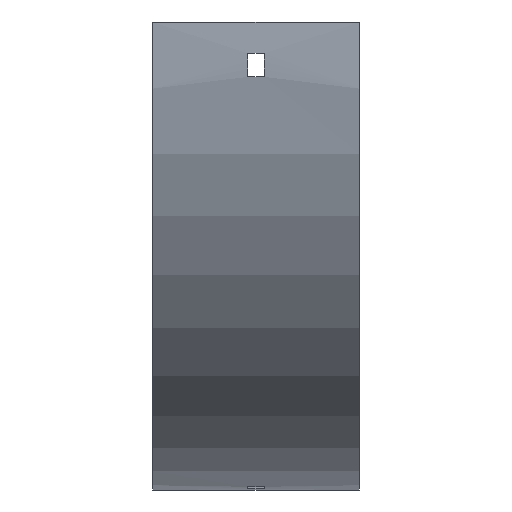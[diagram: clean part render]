
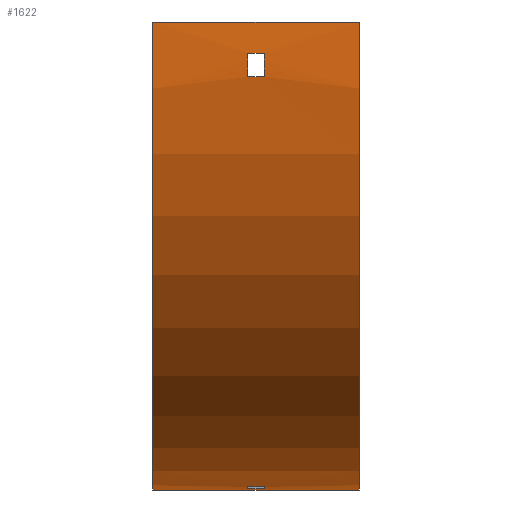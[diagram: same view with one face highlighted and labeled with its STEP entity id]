
A CAD part, front view. The second image highlights one B-rep face of the part: STEP entity #1622.
In plain terms, the highlighted cylindrical face has radius 179 mm (diameter 358 mm), a partial arc.
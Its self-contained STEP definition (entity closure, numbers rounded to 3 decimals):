
#3 = DIRECTION ( 'NONE',  ( -1., 0., 0. ) ) ;
#64 = EDGE_CURVE ( 'NONE', #220, #147, #594, .T. ) ;
#73 = DIRECTION ( 'NONE',  ( 1., 0., 0. ) ) ;
#77 = CARTESIAN_POINT ( 'NONE',  ( 39.5, 100., -179. ) ) ;
#121 = CARTESIAN_POINT ( 'NONE',  ( 3.25, 79., -177.764 ) ) ;
#137 = VERTEX_POINT ( 'NONE', #1407 ) ;
#147 = VERTEX_POINT ( 'NONE', #121 ) ;
#158 = EDGE_LOOP ( 'NONE', ( #167, #1554, #1001, #542 ) ) ;
#162 = CARTESIAN_POINT ( 'NONE',  ( 39.5, 79., -177.764 ) ) ;
#164 = ORIENTED_EDGE ( 'NONE', *, *, #1673, .F. ) ;
#167 = ORIENTED_EDGE ( 'NONE', *, *, #855, .T. ) ;
#173 = FACE_BOUND ( 'NONE', #302, .T. ) ;
#220 = VERTEX_POINT ( 'NONE', #941 ) ;
#227 = EDGE_LOOP ( 'NONE', ( #935, #814, #1685, #164 ) ) ;
#228 = VERTEX_POINT ( 'NONE', #920 ) ;
#230 = LINE ( 'NONE', #1642, #1481 ) ;
#244 = CIRCLE ( 'NONE', #711, 179. ) ;
#250 = CIRCLE ( 'NONE', #849, 179. ) ;
#288 = DIRECTION ( 'NONE',  ( 0., 0., -1. ) ) ;
#302 = EDGE_LOOP ( 'NONE', ( #1316, #1147, #911, #799 ) ) ;
#313 = EDGE_CURVE ( 'NONE', #1447, #918, #335, .T. ) ;
#326 = AXIS2_PLACEMENT_3D ( 'NONE', #845, #1091, #840 ) ;
#335 = LINE ( 'NONE', #1425, #1069 ) ;
#338 = EDGE_CURVE ( 'NONE', #891, #669, #244, .T. ) ;
#381 = CARTESIAN_POINT ( 'NONE',  ( 3.25, -77.764, -21. ) ) ;
#392 = CARTESIAN_POINT ( 'NONE',  ( 39.5, -78.597, -12. ) ) ;
#400 = LINE ( 'NONE', #392, #415 ) ;
#415 = VECTOR ( 'NONE', #1062, 1000. ) ;
#442 = DIRECTION ( 'NONE',  ( -1., 0., 0. ) ) ;
#482 = DIRECTION ( 'NONE',  ( -1., 0., 0. ) ) ;
#537 = EDGE_CURVE ( 'NONE', #1536, #1020, #595, .T. ) ;
#542 = ORIENTED_EDGE ( 'NONE', *, *, #1050, .T. ) ;
#564 = LINE ( 'NONE', #1220, #1184 ) ;
#566 = FACE_BOUND ( 'NONE', #227, .T. ) ;
#594 = CIRCLE ( 'NONE', #824, 179. ) ;
#595 = CIRCLE ( 'NONE', #1555, 179. ) ;
#610 = DIRECTION ( 'NONE',  ( 0., 0., 1. ) ) ;
#619 = VERTEX_POINT ( 'NONE', #1381 ) ;
#669 = VERTEX_POINT ( 'NONE', #1375 ) ;
#683 = DIRECTION ( 'NONE',  ( 1., 0., 0. ) ) ;
#711 = AXIS2_PLACEMENT_3D ( 'NONE', #862, #73, #1382 ) ;
#717 = DIRECTION ( 'NONE',  ( 1., 0., 0. ) ) ;
#722 = CARTESIAN_POINT ( 'NONE',  ( 3.25, -78.597, -12. ) ) ;
#732 = DIRECTION ( 'NONE',  ( -1., 0., 0. ) ) ;
#736 = AXIS2_PLACEMENT_3D ( 'NONE', #1631, #873, #1134 ) ;
#780 = EDGE_CURVE ( 'NONE', #619, #137, #984, .T. ) ;
#799 = ORIENTED_EDGE ( 'NONE', *, *, #537, .T. ) ;
#814 = ORIENTED_EDGE ( 'NONE', *, *, #974, .F. ) ;
#824 = AXIS2_PLACEMENT_3D ( 'NONE', #1007, #732, #610 ) ;
#832 = EDGE_CURVE ( 'NONE', #1020, #619, #230, .T. ) ;
#840 = DIRECTION ( 'NONE',  ( 0., 0., 1. ) ) ;
#845 = CARTESIAN_POINT ( 'NONE',  ( 39.5, 100., 0. ) ) ;
#849 = AXIS2_PLACEMENT_3D ( 'NONE', #1210, #683, #288 ) ;
#855 = EDGE_CURVE ( 'NONE', #228, #918, #903, .T. ) ;
#862 = CARTESIAN_POINT ( 'NONE',  ( -3.25, 100., 0. ) ) ;
#873 = DIRECTION ( 'NONE',  ( 1., 0., 0. ) ) ;
#891 = VERTEX_POINT ( 'NONE', #1394 ) ;
#903 = CIRCLE ( 'NONE', #736, 179. ) ;
#911 = ORIENTED_EDGE ( 'NONE', *, *, #954, .T. ) ;
#918 = VERTEX_POINT ( 'NONE', #1306 ) ;
#920 = CARTESIAN_POINT ( 'NONE',  ( -39.5, -79., 0. ) ) ;
#935 = ORIENTED_EDGE ( 'NONE', *, *, #338, .F. ) ;
#941 = CARTESIAN_POINT ( 'NONE',  ( 3.25, 88., -178.597 ) ) ;
#954 = EDGE_CURVE ( 'NONE', #137, #1536, #400, .T. ) ;
#974 = EDGE_CURVE ( 'NONE', #147, #891, #1689, .T. ) ;
#984 = CIRCLE ( 'NONE', #1124, 179. ) ;
#1001 = ORIENTED_EDGE ( 'NONE', *, *, #1303, .F. ) ;
#1007 = CARTESIAN_POINT ( 'NONE',  ( 3.25, 100., 0. ) ) ;
#1020 = VERTEX_POINT ( 'NONE', #381 ) ;
#1050 = EDGE_CURVE ( 'NONE', #1189, #228, #564, .T. ) ;
#1062 = DIRECTION ( 'NONE',  ( 1., 0., 0. ) ) ;
#1069 = VECTOR ( 'NONE', #1297, 1000. ) ;
#1091 = DIRECTION ( 'NONE',  ( -1., 0., 0. ) ) ;
#1113 = LINE ( 'NONE', #1483, #1188 ) ;
#1124 = AXIS2_PLACEMENT_3D ( 'NONE', #1668, #482, #1537 ) ;
#1134 = DIRECTION ( 'NONE',  ( 0., 0., -1. ) ) ;
#1141 = DIRECTION ( 'NONE',  ( -1., 0., 0. ) ) ;
#1147 = ORIENTED_EDGE ( 'NONE', *, *, #780, .T. ) ;
#1177 = CARTESIAN_POINT ( 'NONE',  ( 39.5, -79., 0. ) ) ;
#1184 = VECTOR ( 'NONE', #442, 1000. ) ;
#1188 = VECTOR ( 'NONE', #1617, 1000. ) ;
#1189 = VERTEX_POINT ( 'NONE', #1177 ) ;
#1210 = CARTESIAN_POINT ( 'NONE',  ( 39.5, 100., 0. ) ) ;
#1220 = CARTESIAN_POINT ( 'NONE',  ( 39.5, -79., 0. ) ) ;
#1234 = CYLINDRICAL_SURFACE ( 'NONE', #326, 179. ) ;
#1235 = CARTESIAN_POINT ( 'NONE',  ( 3.25, 100., 0. ) ) ;
#1297 = DIRECTION ( 'NONE',  ( -1., 0., 0. ) ) ;
#1303 = EDGE_CURVE ( 'NONE', #1189, #1447, #250, .T. ) ;
#1306 = CARTESIAN_POINT ( 'NONE',  ( -39.5, 100., -179. ) ) ;
#1316 = ORIENTED_EDGE ( 'NONE', *, *, #832, .T. ) ;
#1348 = VECTOR ( 'NONE', #3, 1000. ) ;
#1357 = FACE_OUTER_BOUND ( 'NONE', #158, .T. ) ;
#1369 = DIRECTION ( 'NONE',  ( 0., 0., -1. ) ) ;
#1375 = CARTESIAN_POINT ( 'NONE',  ( -3.25, 88., -178.597 ) ) ;
#1381 = CARTESIAN_POINT ( 'NONE',  ( -3.25, -77.764, -21. ) ) ;
#1382 = DIRECTION ( 'NONE',  ( 0., 1., 0. ) ) ;
#1394 = CARTESIAN_POINT ( 'NONE',  ( -3.25, 79., -177.764 ) ) ;
#1407 = CARTESIAN_POINT ( 'NONE',  ( -3.25, -78.597, -12. ) ) ;
#1425 = CARTESIAN_POINT ( 'NONE',  ( 39.5, 100., -179. ) ) ;
#1447 = VERTEX_POINT ( 'NONE', #77 ) ;
#1481 = VECTOR ( 'NONE', #1141, 1000. ) ;
#1483 = CARTESIAN_POINT ( 'NONE',  ( 39.5, 88., -178.597 ) ) ;
#1536 = VERTEX_POINT ( 'NONE', #722 ) ;
#1537 = DIRECTION ( 'NONE',  ( 0., 0., 1. ) ) ;
#1554 = ORIENTED_EDGE ( 'NONE', *, *, #313, .F. ) ;
#1555 = AXIS2_PLACEMENT_3D ( 'NONE', #1235, #717, #1369 ) ;
#1617 = DIRECTION ( 'NONE',  ( 1., 0., 0. ) ) ;
#1622 = ADVANCED_FACE ( 'NONE', ( #1357, #173, #566 ), #1234, .T. ) ;
#1631 = CARTESIAN_POINT ( 'NONE',  ( -39.5, 100., 0. ) ) ;
#1642 = CARTESIAN_POINT ( 'NONE',  ( 39.5, -77.764, -21. ) ) ;
#1668 = CARTESIAN_POINT ( 'NONE',  ( -3.25, 100., 0. ) ) ;
#1673 = EDGE_CURVE ( 'NONE', #669, #220, #1113, .T. ) ;
#1685 = ORIENTED_EDGE ( 'NONE', *, *, #64, .F. ) ;
#1689 = LINE ( 'NONE', #162, #1348 ) ;
